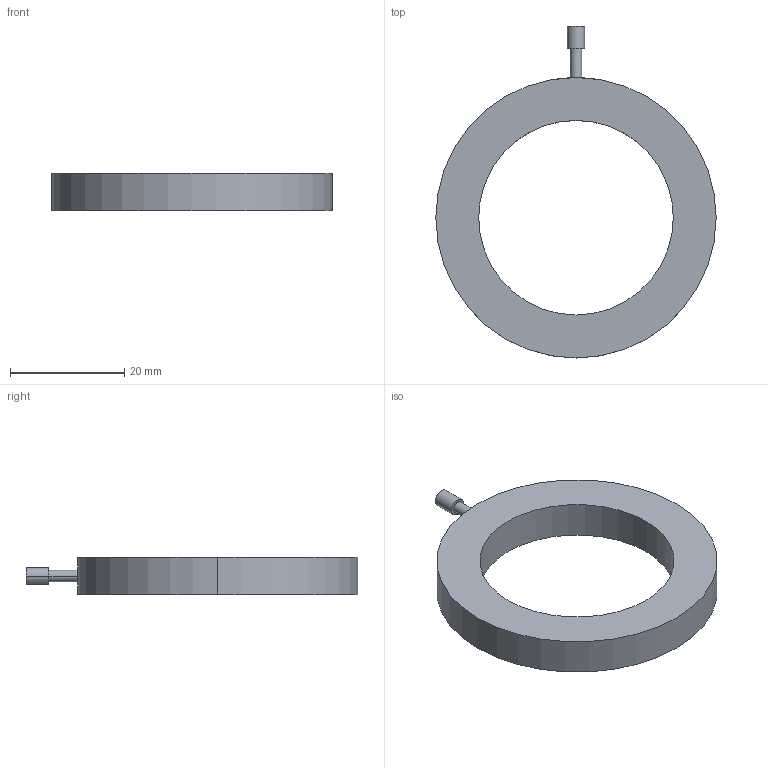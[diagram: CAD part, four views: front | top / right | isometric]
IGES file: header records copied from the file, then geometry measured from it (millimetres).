
Start section:  PTC IGES file: eid02.igs
Global section: file name: eid02.igs; native system: Creo Parametric by Parametric Technology Corporation; preprocessor: 2012130; author: Jason; organization: Unknown; date: 20190627.155653; units: millimetre
Bounding box: 49 x 58 x 6.5 mm (x, y, z)
Surface area: 3727.6 mm2 (no closed solid volume)
Topology: 0 solids, 0 shells, 12 faces, 48 edges, 48 vertices
Faces by surface type: revolution 8, bspline 4
